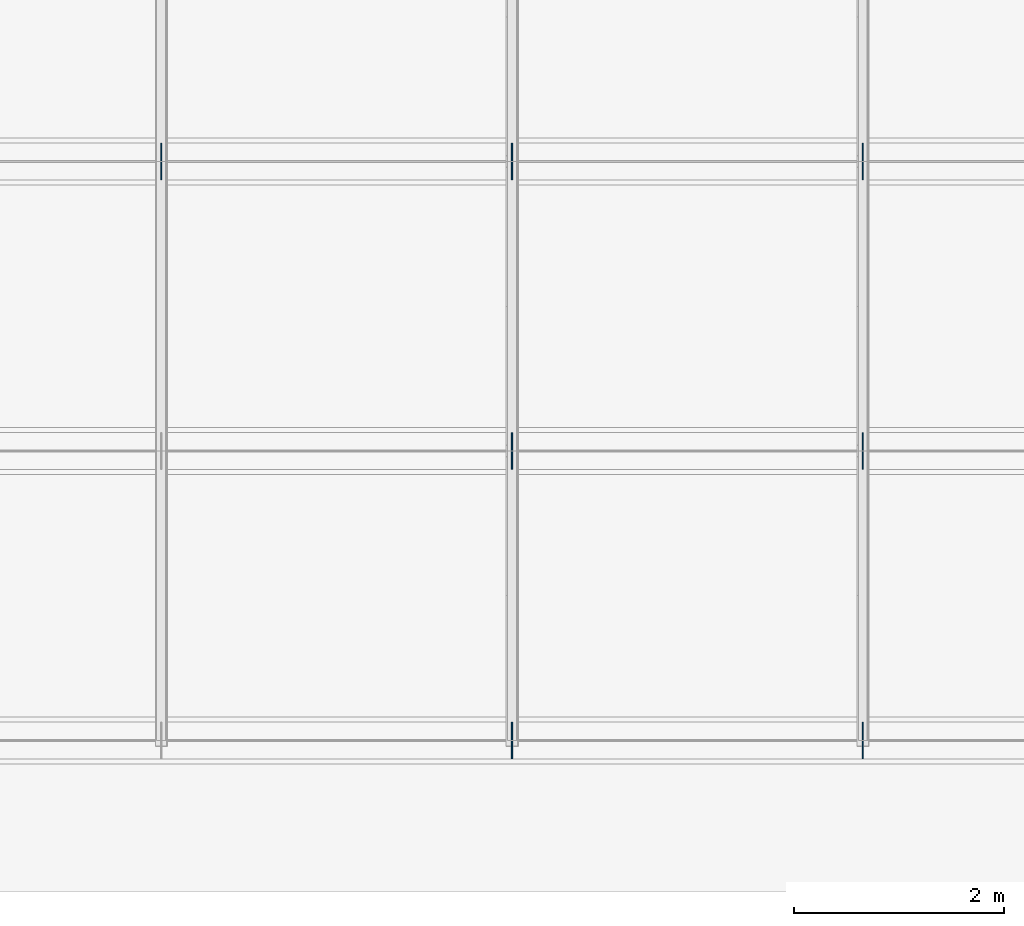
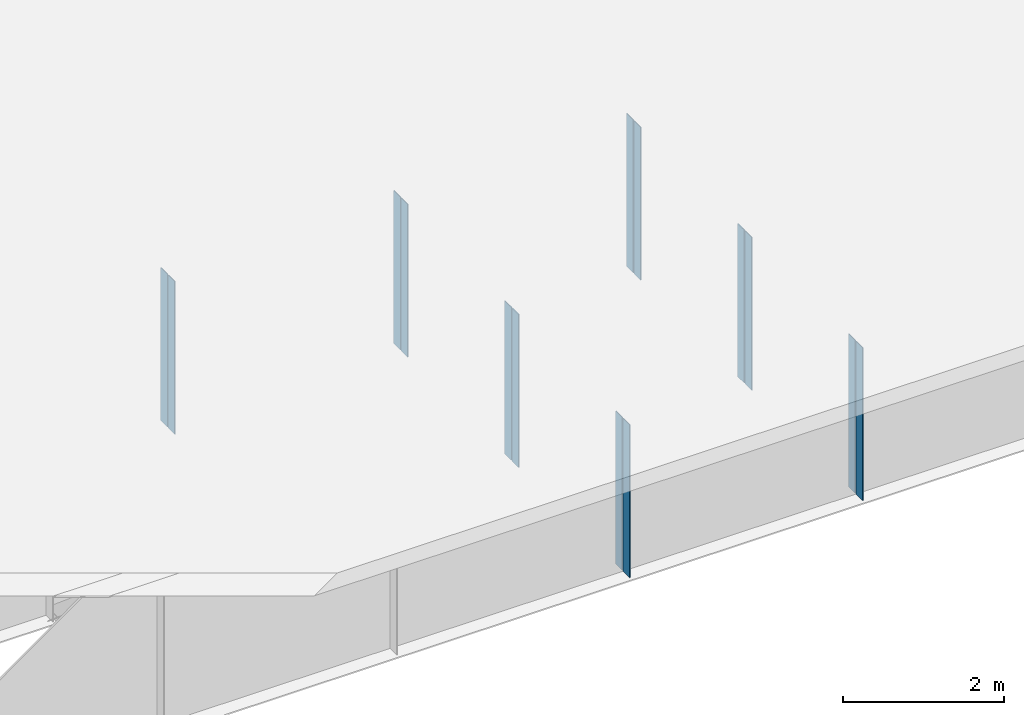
# One storey, part 13 of 19: 14 plates.
"""IFC4 building model written with IfcOpenShell, lengths in metres."""

from ifc_helpers import new_model, si_unit, frame, origin, origin_with_axes, origin_2d_with_axis, place, context, subcontext, project, spatial, rectangle, extrude, element, save


model = new_model("IFC4")

# Units and contexts
model_context = context("Model", 3, precision=1e-05, world=origin())
body_context = subcontext(model_context, "Body", "Model", "MODEL_VIEW")
ifc_project = project(units=[si_unit("LENGTHUNIT", "METRE"), si_unit("AREAUNIT", "SQUARE_METRE"), si_unit("VOLUMEUNIT", "CUBIC_METRE"), si_unit("PLANEANGLEUNIT", "RADIAN")], contexts=[model_context])

# Site, building, storey
site_placement = place(None, origin_with_axes())
site = spatial("IfcSite", under=ifc_project, at=site_placement, Name="Default Site")
building_placement = place(site_placement, origin_with_axes())
building = spatial("IfcBuilding", under=site, at=building_placement, Name="Bridge Structure")
storey_placement = place(building_placement, origin_with_axes())
storey = spatial("IfcBuildingStorey", under=building, at=storey_placement, Name="Superstructure")

# Plates
for number, where, z_axis, x_axis, name in (
    (1, (26.664, -5.4085, -1.157), (0.0, 0.0, 1.0), (1.0, 0.0, 0.0), "Intermediate Stiffener 1"),
    (2, (26.664, -5.5915, -1.157), (0.0, 0.0, 1.0), (1.0, 0.0, 0.0), "Intermediate Stiffener 1"),
    (3, (29.997, -5.4085, -1.157), (0.0, 0.0, 1.0), (1.0, 0.0, 0.0), "Intermediate Stiffener 1"),
    (4, (29.997, -5.5915, -1.157), (0.0, 0.0, 1.0), (1.0, 0.0, 0.0), "Intermediate Stiffener 1"),
    (5, (26.664, -2.6585, -1.157), (0.0, 0.0, 1.0), (1.0, 0.0, 0.0), "Intermediate Stiffener 2"),
    (6, (26.664, -2.8415, -1.157), (0.0, 0.0, 1.0), (1.0, 0.0, 0.0), "Intermediate Stiffener 2"),
    (7, (29.997, -2.6585, -1.157), (0.0, 0.0, 1.0), (1.0, 0.0, 0.0), "Intermediate Stiffener 2"),
    (8, (29.997, -2.8415, -1.157), (0.0, 0.0, 1.0), (1.0, 0.0, 0.0), "Intermediate Stiffener 2"),
    (9, (23.331, 0.0915, -1.157), (0.0, 0.0, 1.0), (1.0, 0.0, 0.0), "Intermediate Stiffener 3"),
    (10, (23.331, -0.0915, -1.157), (0.0, 0.0, 1.0), (1.0, 0.0, 0.0), "Intermediate Stiffener 3"),
    (11, (26.664, 0.0915, -1.157), (0.0, 0.0, 1.0), (1.0, 0.0, 0.0), "Intermediate Stiffener 3"),
    (12, (26.664, -0.0915, -1.157), (0.0, 0.0, 1.0), (1.0, 0.0, 0.0), "Intermediate Stiffener 3"),
    (13, (29.997, 0.0915, -1.157), (0.0, 0.0, 1.0), (1.0, 0.0, 0.0), "Intermediate Stiffener 3"),
    (14, (29.997, -0.0915, -1.157), (0.0, 0.0, 1.0), (1.0, 0.0, 0.0), "Intermediate Stiffener 3"),
):
    element("IfcPlate", number, at=place(storey_placement, frame(where, z_axis=z_axis, x_axis=x_axis)), inside=storey, Name=name, context=body_context, shape_type="SweptSolid", body=[
        extrude(rectangle(XDim=0.012, YDim=0.167, at=origin_2d_with_axis()), origin_with_axes(), (0.0, 0.0, 1.0), 2.314),
    ])

save(model, "model.ifc")
